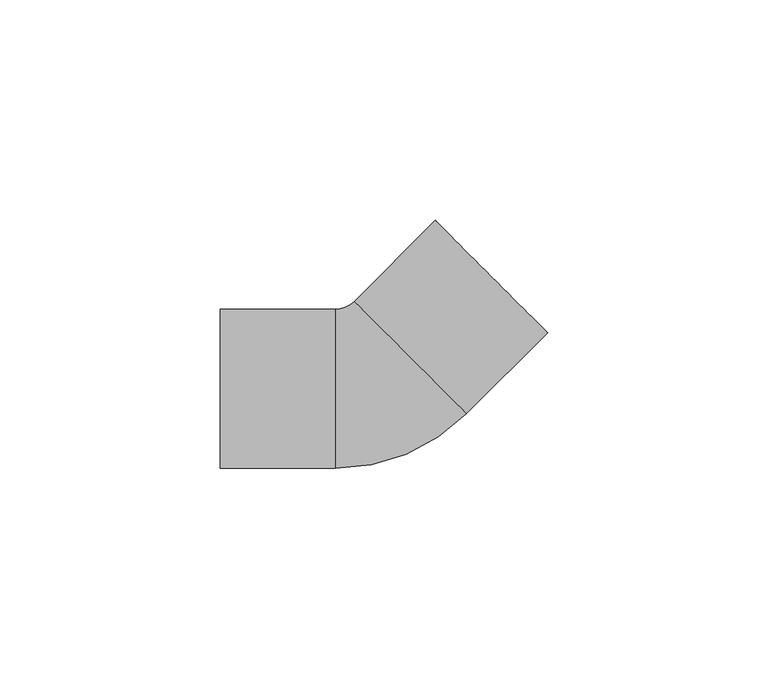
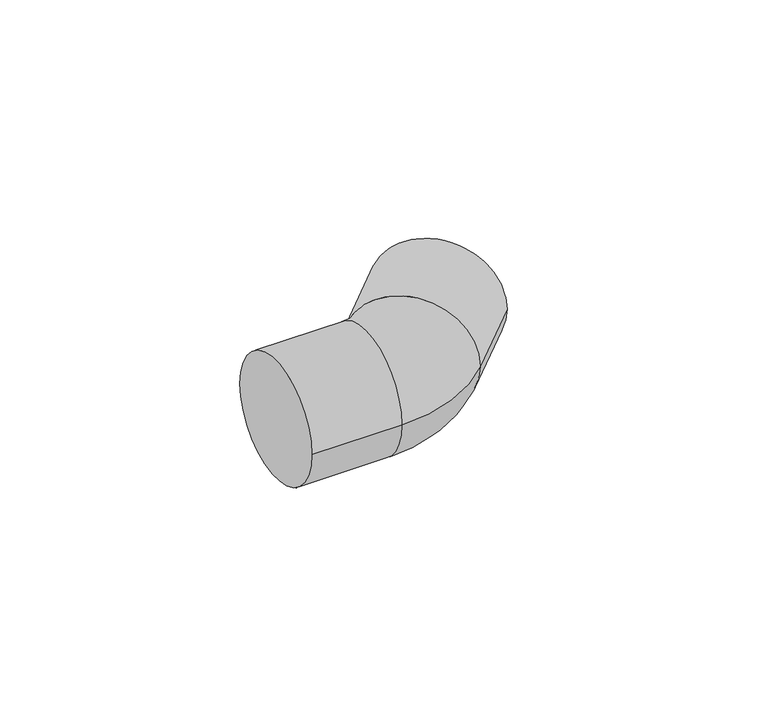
"""IFC4 building model written with IfcOpenShell, lengths in millimetres: pipe fitting geometry, 01051067 : Coudes à 45º."""

from ifc_helpers import new_model, si_unit, point, frame, origin, place, context, project, spatial, circle_curve, ellipse_curve, trimmed, source, transform, mapped, element, save
from ifc_brep_helpers import plane_surface, cylinder_surface, revolved_surface, advanced_brep


def pipe_fitting_1ed3344b(model_context):
    return source(origin(), model_context, "Body", "AdvancedBrep", [
        advanced_brep(
        [(-36.0, -18.0, 0.0), (-36.0, 18.0, 0.0), (-10.0, -18.0, 0.0), (-10.0, 18.0, 0.0), (-5.6568542, 19.7989899, 0.0), (19.7989899, -5.6568542, 0.0), (38.1837662, 12.7279221, 0.0), (12.7279221, 38.1837662, 0.0)],
        [
            (0, 1, circle_curve(frame((-36.0, 0.0, 0.0), z_axis=(-1.0, 0.0, 0.0), x_axis=(0.0, 1.0, 0.0)), 18.0)),
            (1, 0, circle_curve(frame((-36.0, 0.0, 0.0), z_axis=(-1.0, 0.0, 0.0), x_axis=(0.0, 1.0, 0.0)), 18.0)),
            (0, 2),
            (2, 3, circle_curve(frame((-10.0, 0.0, 0.0), z_axis=(-1.0, 0.0, 0.0), x_axis=(0.0, 1.0, 0.0)), 18.0)),
            (3, 1),
            (3, 2, circle_curve(frame((-10.0, 0.0, 0.0), z_axis=(-1.0, 0.0, 0.0), x_axis=(0.0, 1.0, 0.0)), 18.0)),
            (4, 3, circle_curve(frame((-10.0, 24.1421356, 0.0), z_axis=(0.0, 0.0, -1.0), x_axis=(0.0, -1.0, 0.0)), 6.1421356)),
            (2, 5, circle_curve(frame((-10.0, 24.1421356, 0.0), z_axis=(0.0, 0.0, 1.0), x_axis=(0.0, -1.0, 0.0)), 42.1421356)),
            (5, 4, circle_curve(frame((7.0710678, 7.0710678, 0.0), z_axis=(-0.7071067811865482, -0.7071067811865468, 0.0), x_axis=(-0.7071067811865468, 0.7071067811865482, 0.0)), 18.0)),
            (4, 5, circle_curve(frame((7.0710678, 7.0710678, 0.0), z_axis=(-0.7071067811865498, -0.7071067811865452, 0.0), x_axis=(-0.7071067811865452, 0.7071067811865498, 0.0)), 18.0)),
            (6, 7, circle_curve(frame((25.4558441, 25.4558441, 0.0), z_axis=(0.7071067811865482, 0.7071067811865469, 0.0), x_axis=(-0.7071067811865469, 0.7071067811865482, 0.0)), 18.0)),
            (7, 6, circle_curve(frame((25.4558441, 25.4558441, 0.0), z_axis=(0.7071067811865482, 0.7071067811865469, 0.0), x_axis=(-0.7071067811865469, 0.7071067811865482, 0.0)), 18.0)),
            (5, 6),
            (7, 4),
        ],
        [
            plane_surface(frame((-36.0, 0.0, 0.0), z_axis=(-1.0, 0.0, 0.0), x_axis=(0.0, 0.0, 1.0))),
            cylinder_surface(frame((-36.0, 0.0, 0.0), z_axis=(-1.0, 0.0, 0.0), x_axis=(0.0, 1.0, 0.0)), 18.0),
            revolved_surface(trimmed(ellipse_curve(frame((-10.0, 0.0, 0.0), z_axis=(-1.0, 0.0, 0.0), x_axis=(0.0, 1.0, 0.0)), 18.0, 18.0), [point((-10.0, -18.0, 0.0))], [point((-10.0, 18.0, 0.0))], True, "CARTESIAN"), (-10.0, 24.1421356, 0.0), (0.0, 0.0, 1.0)),
            revolved_surface(trimmed(ellipse_curve(frame((-10.0, 0.0, 0.0), z_axis=(-1.0, 0.0, 0.0), x_axis=(0.0, 1.0, 0.0)), 18.0, 18.0), [point((-10.0, 18.0, 0.0))], [point((-10.0, -18.0, 0.0))], True, "CARTESIAN"), (-10.0, 24.1421356, 0.0), (0.0, 0.0, 1.0)),
            plane_surface(frame((25.4558441, 25.4558441, 0.0), z_axis=(0.7071067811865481, 0.7071067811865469, 0.0), x_axis=(0.0, 0.0, 1.0))),
            cylinder_surface(frame((7.0710678, 7.0710678, 0.0), z_axis=(-0.7071067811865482, -0.7071067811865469, 0.0), x_axis=(-0.7071067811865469, 0.7071067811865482, 0.0)), 18.0),
        ],
        [
            (0, [[1, 2]]),
            (1, [[-1, 3, 4, 5]]),
            (1, [[-2, -5, 6, -3]]),
            (2, [[7, -4, 8, 9]]),
            (3, [[-8, -6, -7, 10]]),
            (4, [[11, 12]]),
            (5, [[-9, 13, -12, 14]]),
            (5, [[-10, -14, -11, -13]]),
        ],
    ),
    ])


if __name__ == "__main__":
    model = new_model("IFC4")
    model_context = context("Model", 3, world=origin())
    ifc_project = project(units=[si_unit("LENGTHUNIT", "METRE", prefix="MILLI")], contexts=[model_context])
    site = spatial("IfcSite", under=ifc_project)
    building = spatial("IfcBuilding", under=site)
    placement = place(None, origin())
    pipe_fitting_shape = pipe_fitting_1ed3344b(model_context)
    element("IfcPipeFitting", 1, ObjectType="01051067 : Coudes à 45º", at=placement, inside=building, context=model_context, shape_type="MappedRepresentation", body=[
        mapped(pipe_fitting_shape, transform((0.0, 0.0, 0.0), x_axis=(1.0, 0.0, 0.0), y_axis=(0.0, 1.0, 0.0), z_axis=(0.0, 0.0, 1.0))),
    ])
    save(model, "model.ifc")
